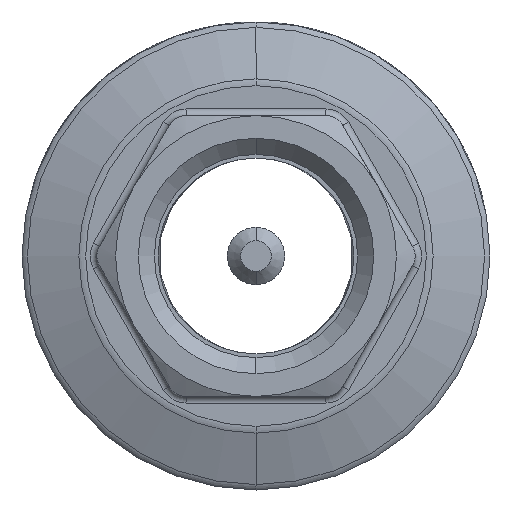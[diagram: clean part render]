
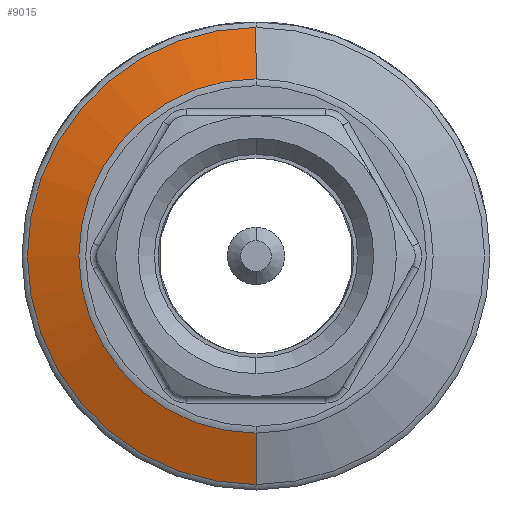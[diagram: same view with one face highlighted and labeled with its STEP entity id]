
A CAD part, front view. The second image highlights one B-rep face of the part: STEP entity #9015.
In plain terms, the highlighted conical face has half-angle 70 degrees and reference radius 13 mm.
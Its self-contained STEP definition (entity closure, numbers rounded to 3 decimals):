
#28 = ORIENTED_EDGE ( 'NONE', *, *, #8440, .F. ) ;
#199 = VERTEX_POINT ( 'NONE', #4738 ) ;
#1189 = DIRECTION ( 'NONE',  ( 0., 1., 0. ) ) ;
#1520 = ORIENTED_EDGE ( 'NONE', *, *, #1985, .T. ) ;
#1919 = CIRCLE ( 'NONE', #2491, 13.249 ) ;
#1985 = EDGE_CURVE ( 'NONE', #6402, #199, #4182, .T. ) ;
#2243 = CARTESIAN_POINT ( 'NONE',  ( 0., -36.002, 0. ) ) ;
#2402 = FACE_OUTER_BOUND ( 'NONE', #7050, .T. ) ;
#2416 = DIRECTION ( 'NONE',  ( 0., 1., 0. ) ) ;
#2491 = AXIS2_PLACEMENT_3D ( 'NONE', #7966, #2416, #8854 ) ;
#3237 = DIRECTION ( 'NONE',  ( 0., 0., 1. ) ) ;
#4023 = CARTESIAN_POINT ( 'NONE',  ( 0., -36.002, 17.092 ) ) ;
#4182 = CIRCLE ( 'NONE', #5973, 17.092 ) ;
#4398 = VERTEX_POINT ( 'NONE', #4465 ) ;
#4465 = CARTESIAN_POINT ( 'NONE',  ( 0., -37.401, 13.249 ) ) ;
#4519 = CARTESIAN_POINT ( 'NONE',  ( 0., -37.491, 13. ) ) ;
#4738 = CARTESIAN_POINT ( 'NONE',  ( 0., -36.002, -17.092 ) ) ;
#5281 = LINE ( 'NONE', #4519, #9702 ) ;
#5337 = ORIENTED_EDGE ( 'NONE', *, *, #12007, .T. ) ;
#5444 = DIRECTION ( 'NONE',  ( 0., 0.342, 0.94 ) ) ;
#5973 = AXIS2_PLACEMENT_3D ( 'NONE', #2243, #8697, #3237 ) ;
#6402 = VERTEX_POINT ( 'NONE', #4023 ) ;
#6452 = VECTOR ( 'NONE', #8333, 1000. ) ;
#6712 = LINE ( 'NONE', #7448, #6452 ) ;
#6807 = CONICAL_SURFACE ( 'NONE', #8779, 13., 1.222 ) ;
#6884 = CARTESIAN_POINT ( 'NONE',  ( 0., -37.491, 0. ) ) ;
#7050 = EDGE_LOOP ( 'NONE', ( #5337, #8674, #1520, #28 ) ) ;
#7448 = CARTESIAN_POINT ( 'NONE',  ( 0., -37.491, -13. ) ) ;
#7762 = DIRECTION ( 'NONE',  ( 0., 0., -1. ) ) ;
#7966 = CARTESIAN_POINT ( 'NONE',  ( 0., -37.401, 0. ) ) ;
#8333 = DIRECTION ( 'NONE',  ( 0., 0.342, -0.94 ) ) ;
#8440 = EDGE_CURVE ( 'NONE', #10815, #199, #6712, .T. ) ;
#8674 = ORIENTED_EDGE ( 'NONE', *, *, #10220, .T. ) ;
#8697 = DIRECTION ( 'NONE',  ( 0., -1., 0. ) ) ;
#8779 = AXIS2_PLACEMENT_3D ( 'NONE', #6884, #1189, #7762 ) ;
#8854 = DIRECTION ( 'NONE',  ( 0., 0., 1. ) ) ;
#9015 = ADVANCED_FACE ( 'NONE', ( #2402 ), #6807, .T. ) ;
#9702 = VECTOR ( 'NONE', #5444, 1000. ) ;
#10220 = EDGE_CURVE ( 'NONE', #4398, #6402, #5281, .T. ) ;
#10692 = CARTESIAN_POINT ( 'NONE',  ( 0., -37.401, -13.249 ) ) ;
#10815 = VERTEX_POINT ( 'NONE', #10692 ) ;
#12007 = EDGE_CURVE ( 'NONE', #10815, #4398, #1919, .T. ) ;
